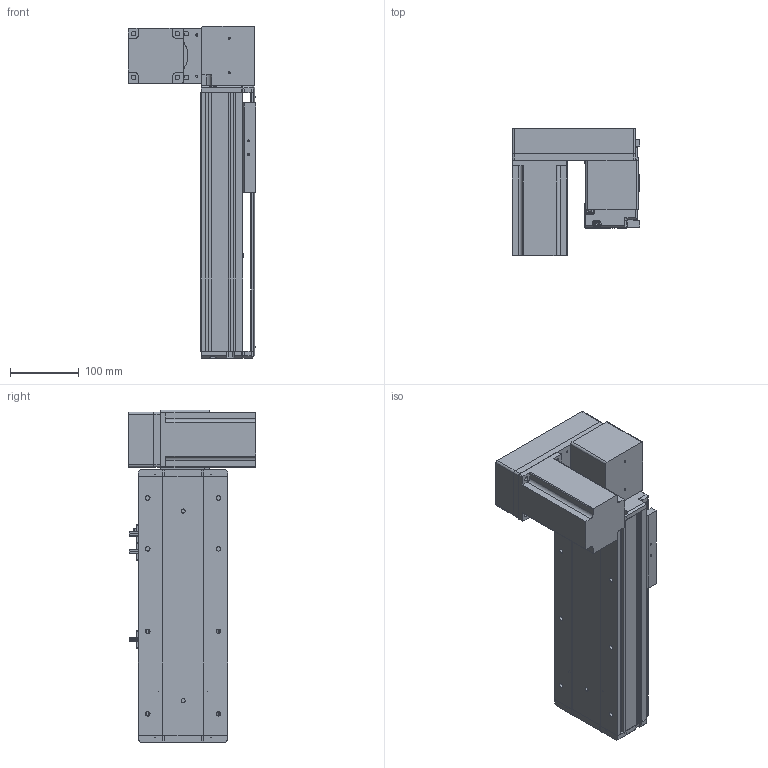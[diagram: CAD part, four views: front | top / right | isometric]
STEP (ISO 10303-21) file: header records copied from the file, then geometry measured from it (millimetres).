
FILE_DESCRIPTION (( 'STEP AP214' ), '1' );
FILE_NAME ('KSD130B-S150-MRD-CM.STEP', '2019-11-15T08:13:08', ( '微软用户' ), ( '微软中国' ), 'SwSTEP 2.0', 'SolidWorks 2014', '' );
FILE_SCHEMA (( 'AUTOMOTIVE_DESIGN' ));
Length unit declared in the file: millimetre
Products named in the file (12): 130宽模组保护罩上下左右折-同步带; 台达ECMA－C20807AS伺服电机; 130宽模组马达安装板连板上下折丝杆同步带; 覜茼え100遵圉猾敕; U倰嫖萇EEㄜSX672; 130宽盖板半封闭同步带-150行程; 130宽马达安装板同步带右-改镜向_默认<按加工>; 130宽马达安装板同步带半封闭; 130宽同步带安装座半封闭; 130宽端盖同步带半封闭; 130宽底板半封闭同步带-150行程; KSD130B-S150-MRD-CM
Assembly tree (13 placements, depth 2):
  KSD130B-S150-MRD-CM
    130宽底板半封闭同步带-150行程
    130宽端盖同步带半封闭
    130宽同步带安装座半封闭
    130宽马达安装板同步带半封闭
    130宽马达安装板同步带右-改镜向_默认<按加工>
    130宽盖板半封闭同步带-150行程
    U倰嫖萇EEㄜSX672  x3
    覜茼え100遵圉猾敕
    130宽模组马达安装板连板上下折丝杆同步带
    台达ECMA－C20807AS伺服电机
    130宽模组保护罩上下左右折-同步带
Bounding box: 186 x 184.8 x 483 mm (x, y, z)
Volume: 2672336 mm3; surface area: 652970.5 mm2
Topology: 14 solids, 14 shells, 1329 faces, 3705 edges, 2391 vertices
Faces by surface type: cylinder 612, plane 598, cone 119
Entity records: 41675 total; most frequent: CARTESIAN_POINT 7272, DIRECTION 6439, ORIENTED_EDGE 6158, EDGE_CURVE 3079, AXIS2_PLACEMENT_3D 2318, VERTEX_POINT 2015, VECTOR 1803, LINE 1803
